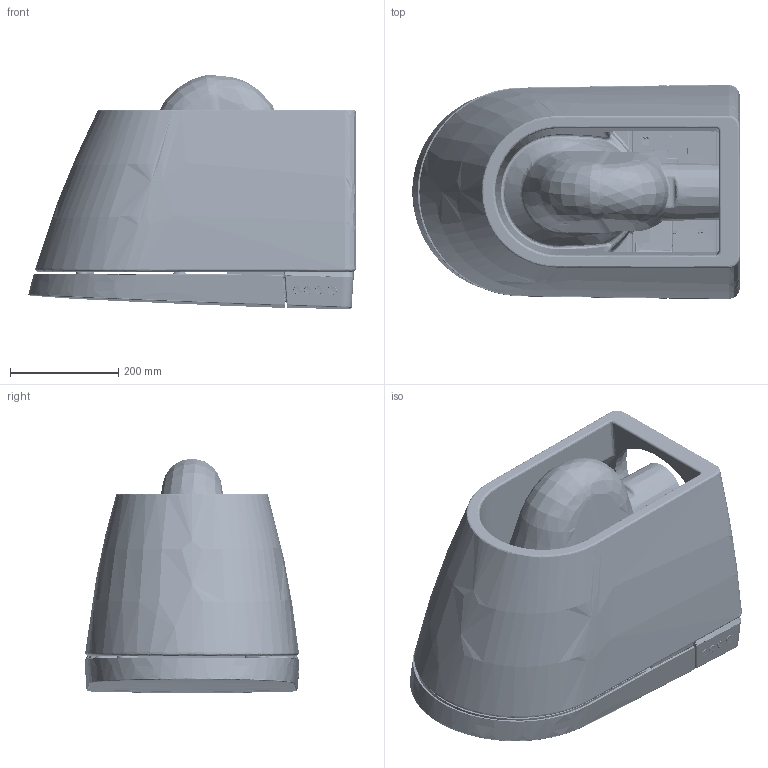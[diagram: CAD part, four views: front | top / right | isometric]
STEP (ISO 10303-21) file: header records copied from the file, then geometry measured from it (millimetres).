
FILE_DESCRIPTION (( 'STEP AP203' ), '1' );
FILE_NAME ('WQ Akýllý Klozet.STEP', '2022-04-25T13:18:03', ( '' ), ( '' ), 'SwSTEP 2.0', 'SolidWorks 2021', '' );
FILE_SCHEMA (( 'CONFIG_CONTROL_DESIGN' ));
Products named in the file (1): WQ Akýllý Klozet
Bounding box: 606.11 x 397.97 x 434.48 mm (x, y, z)
Volume: 10383431.3 mm3; surface area: 4046406.8 mm2
Topology: 51 solids, 53 shells, 21196 faces, 51364 edges, 30381 vertices
Faces by surface type: cylinder 6177, bspline 5946, plane 5355, torus 1766, cone 1063, sphere 889
Entity records: 1128730 total; most frequent: CARTESIAN_POINT 687051, ORIENTED_EDGE 102094, DIRECTION 78800, EDGE_CURVE 51047, AXIS2_PLACEMENT_3D 30340, VERTEX_POINT 30325, EDGE_LOOP 21846, ADVANCED_FACE 21190
